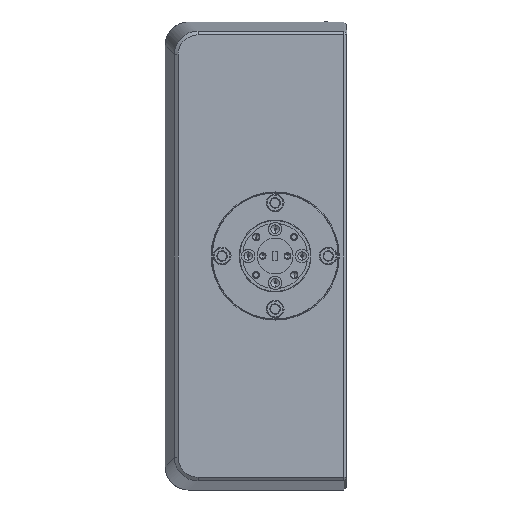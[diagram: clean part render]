
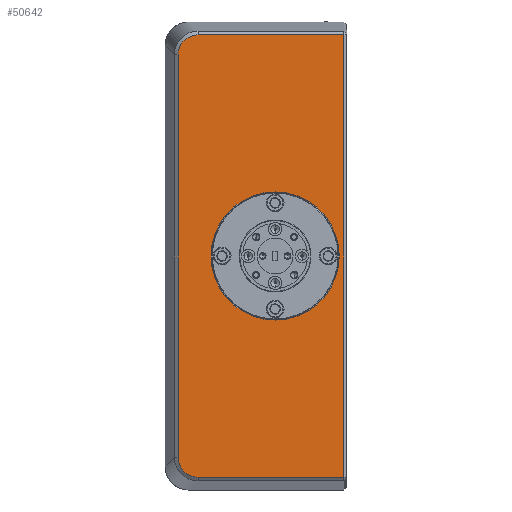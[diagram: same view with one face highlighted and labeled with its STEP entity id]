
A CAD part, left-side view. The second image highlights one B-rep face of the part: STEP entity #50642.
In plain terms, the highlighted planar face has unit normal (-1, 0, 0).
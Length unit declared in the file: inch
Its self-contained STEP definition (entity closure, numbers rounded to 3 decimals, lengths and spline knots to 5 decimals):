
#1536 = CARTESIAN_POINT ( 'NONE',  ( -2.75, 4.81844, 2.23117 ) ) ;
#2105 = VERTEX_POINT ( 'NONE', #58259 ) ;
#2536 = DIRECTION ( 'NONE',  ( 0., 0., 1. ) ) ;
#2976 = CARTESIAN_POINT ( 'NONE',  ( -2.75, 4.04607, 0. ) ) ;
#2977 = CARTESIAN_POINT ( 'NONE',  ( -2.75, 4.83369, -2.20829 ) ) ;
#3613 = CARTESIAN_POINT ( 'NONE',  ( -2.75, 4.80979, -2.24174 ) ) ;
#6203 = DIRECTION ( 'NONE',  ( -1., 0., 0. ) ) ;
#6360 = CARTESIAN_POINT ( 'NONE',  ( -2.75, 4.79056, 2.26096 ) ) ;
#6684 = CARTESIAN_POINT ( 'NONE',  ( -2.75, 4.78, 2.26962 ) ) ;
#7339 = ORIENTED_EDGE ( 'NONE', *, *, #41808, .T. ) ;
#7635 = CARTESIAN_POINT ( 'NONE',  ( -2.75, 4.75712, 2.28486 ) ) ;
#7691 = CIRCLE ( 'NONE', #43529, 0.67 ) ;
#7803 = CARTESIAN_POINT ( 'NONE',  ( -2.75, 4.65223, -2.31232 ) ) ;
#8427 = CARTESIAN_POINT ( 'NONE',  ( -2.75, 4.84013, -2.19623 ) ) ;
#8866 = CARTESIAN_POINT ( 'NONE',  ( -2.75, 4.04607, -2.31232 ) ) ;
#9175 = LINE ( 'NONE', #8866, #33201 ) ;
#9545 = VECTOR ( 'NONE', #24882, 39.37008 ) ;
#9869 = ORIENTED_EDGE ( 'NONE', *, *, #61025, .T. ) ;
#11487 = CARTESIAN_POINT ( 'NONE',  ( -2.75, 4.83369, 2.2083 ) ) ;
#12176 = CARTESIAN_POINT ( 'NONE',  ( -2.75, 3.12607, 0. ) ) ;
#12591 = DIRECTION ( 'NONE',  ( 0., 0., 1. ) ) ;
#13123 = CIRCLE ( 'NONE', #57158, 0.67 ) ;
#13884 = DIRECTION ( 'NONE',  ( 1., 0., 0. ) ) ;
#14946 = LINE ( 'NONE', #49559, #9545 ) ;
#16292 = EDGE_CURVE ( 'NONE', #30378, #50068, #42052, .T. ) ;
#18034 = CARTESIAN_POINT ( 'NONE',  ( -2.75, 4.79057, -2.26097 ) ) ;
#18663 = CARTESIAN_POINT ( 'NONE',  ( -2.75, 4.67966, -2.31099 ) ) ;
#19050 = VERTEX_POINT ( 'NONE', #61886 ) ;
#19279 = B_SPLINE_CURVE_WITH_KNOTS ( 'NONE', 3,
 ( #61065, #27690, #62630, #58136, #52674, #8427, #2977, #22548, #3613, #18034, #57823, #23816, #37618, #57185, #43373, #18663, #56870, #7803 ),
 .UNSPECIFIED., .F., .F.,
 ( 4, 2, 2, 2, 2, 2, 2, 2, 4 ),
 ( 0., 0.125, 0.25, 0.375, 0.5, 0.625, 0.75, 0.875, 1. ),
 .UNSPECIFIED. ) ;
#21092 = CARTESIAN_POINT ( 'NONE',  ( -2.75, 4.84012, 2.19624 ) ) ;
#21632 = VERTEX_POINT ( 'NONE', #28387 ) ;
#22414 = LINE ( 'NONE', #12176, #46209 ) ;
#22548 = CARTESIAN_POINT ( 'NONE',  ( -2.75, 4.81844, -2.23117 ) ) ;
#23310 = ORIENTED_EDGE ( 'NONE', *, *, #27354, .T. ) ;
#23590 = EDGE_CURVE ( 'NONE', #2105, #19050, #13123, .T. ) ;
#23816 = CARTESIAN_POINT ( 'NONE',  ( -2.75, 4.75712, -2.28486 ) ) ;
#23992 = VECTOR ( 'NONE', #27158, 39.37008 ) ;
#24836 = VERTEX_POINT ( 'NONE', #58197 ) ;
#24882 = DIRECTION ( 'NONE',  ( 0., 0., -1. ) ) ;
#25932 = CARTESIAN_POINT ( 'NONE',  ( -2.75, 4.80979, 2.24174 ) ) ;
#27158 = DIRECTION ( 'NONE',  ( 0., 1., 0. ) ) ;
#27354 = EDGE_CURVE ( 'NONE', #58630, #30378, #32304, .T. ) ;
#27690 = CARTESIAN_POINT ( 'NONE',  ( -2.75, 4.86115, -2.11713 ) ) ;
#28387 = CARTESIAN_POINT ( 'NONE',  ( -2.75, 3.12607, -2.31232 ) ) ;
#28670 = ORIENTED_EDGE ( 'NONE', *, *, #16292, .T. ) ;
#29489 = CARTESIAN_POINT ( 'NONE',  ( -2.75, 4.86115, -2.1034 ) ) ;
#29994 = ORIENTED_EDGE ( 'NONE', *, *, #38850, .T. ) ;
#30378 = VERTEX_POINT ( 'NONE', #51074 ) ;
#31079 = CARTESIAN_POINT ( 'NONE',  ( -2.75, 4.85446, 2.15793 ) ) ;
#31402 = CARTESIAN_POINT ( 'NONE',  ( -2.75, 4.86115, 2.1034 ) ) ;
#32304 = LINE ( 'NONE', #62109, #23992 ) ;
#33201 = VECTOR ( 'NONE', #47670, 39.37008 ) ;
#34445 = CARTESIAN_POINT ( 'NONE',  ( -2.75, 3.84607, 0. ) ) ;
#36194 = CARTESIAN_POINT ( 'NONE',  ( -2.75, 4.86115, 2.11717 ) ) ;
#37618 = CARTESIAN_POINT ( 'NONE',  ( -2.75, 4.74507, -2.29129 ) ) ;
#38231 = FACE_OUTER_BOUND ( 'NONE', #53705, .T. ) ;
#38850 = EDGE_CURVE ( 'NONE', #50068, #51490, #14946, .T. ) ;
#40660 = CARTESIAN_POINT ( 'NONE',  ( -2.75, 4.70673, 2.30563 ) ) ;
#41808 = EDGE_CURVE ( 'NONE', #24836, #21632, #9175, .T. ) ;
#42052 = B_SPLINE_CURVE_WITH_KNOTS ( 'NONE', 3,
 ( #45479, #55104, #55429, #40660, #51556, #46757, #7635, #6684, #6360, #25932, #1536, #11487, #21092, #60257, #31079, #50605, #36194, #31402 ),
 .UNSPECIFIED., .F., .F.,
 ( 4, 2, 2, 2, 2, 2, 2, 2, 4 ),
 ( 0., 0.125, 0.25, 0.375, 0.5, 0.625, 0.75, 0.875, 1. ),
 .UNSPECIFIED. ) ;
#43373 = CARTESIAN_POINT ( 'NONE',  ( -2.75, 4.70676, -2.30563 ) ) ;
#43529 = AXIS2_PLACEMENT_3D ( 'NONE', #34445, #6203, #53990 ) ;
#45479 = CARTESIAN_POINT ( 'NONE',  ( -2.75, 4.65223, 2.31232 ) ) ;
#46209 = VECTOR ( 'NONE', #2536, 39.37008 ) ;
#46614 = DIRECTION ( 'NONE',  ( 0., 1., 0. ) ) ;
#46757 = CARTESIAN_POINT ( 'NONE',  ( -2.75, 4.74506, 2.2913 ) ) ;
#46922 = FACE_BOUND ( 'NONE', #53505, .T. ) ;
#47670 = DIRECTION ( 'NONE',  ( 0., -1., 0. ) ) ;
#49559 = CARTESIAN_POINT ( 'NONE',  ( -2.75, 4.86115, 0. ) ) ;
#50068 = VERTEX_POINT ( 'NONE', #61450 ) ;
#50605 = CARTESIAN_POINT ( 'NONE',  ( -2.75, 4.85981, 2.13083 ) ) ;
#50642 = ADVANCED_FACE ( 'NONE', ( #38231, #46922 ), #57822, .F. ) ;
#51074 = CARTESIAN_POINT ( 'NONE',  ( -2.75, 4.65223, 2.31232 ) ) ;
#51490 = VERTEX_POINT ( 'NONE', #29489 ) ;
#51556 = CARTESIAN_POINT ( 'NONE',  ( -2.75, 4.71985, 2.30168 ) ) ;
#52355 = ORIENTED_EDGE ( 'NONE', *, *, #59310, .T. ) ;
#52674 = CARTESIAN_POINT ( 'NONE',  ( -2.75, 4.85051, -2.17102 ) ) ;
#53505 = EDGE_LOOP ( 'NONE', ( #61591, #59592 ) ) ;
#53705 = EDGE_LOOP ( 'NONE', ( #9869, #7339, #52355, #23310, #28670, #29994 ) ) ;
#53990 = DIRECTION ( 'NONE',  ( 0., 0., 1. ) ) ;
#55104 = CARTESIAN_POINT ( 'NONE',  ( -2.75, 4.66596, 2.31232 ) ) ;
#55429 = CARTESIAN_POINT ( 'NONE',  ( -2.75, 4.67964, 2.31098 ) ) ;
#56245 = EDGE_CURVE ( 'NONE', #19050, #2105, #7691, .T. ) ;
#56526 = CARTESIAN_POINT ( 'NONE',  ( -2.75, 3.84607, 0. ) ) ;
#56870 = CARTESIAN_POINT ( 'NONE',  ( -2.75, 4.666, -2.31232 ) ) ;
#57158 = AXIS2_PLACEMENT_3D ( 'NONE', #56526, #61670, #12591 ) ;
#57185 = CARTESIAN_POINT ( 'NONE',  ( -2.75, 4.71984, -2.30169 ) ) ;
#57822 = PLANE ( 'NONE',  #58653 ) ;
#57823 = CARTESIAN_POINT ( 'NONE',  ( -2.75, 4.78, -2.26962 ) ) ;
#58136 = CARTESIAN_POINT ( 'NONE',  ( -2.75, 4.85446, -2.1579 ) ) ;
#58197 = CARTESIAN_POINT ( 'NONE',  ( -2.75, 4.65223, -2.31232 ) ) ;
#58259 = CARTESIAN_POINT ( 'NONE',  ( -2.75, 3.84607, 0.67 ) ) ;
#58466 = CARTESIAN_POINT ( 'NONE',  ( -2.75, 3.12607, 2.31232 ) ) ;
#58630 = VERTEX_POINT ( 'NONE', #58466 ) ;
#58653 = AXIS2_PLACEMENT_3D ( 'NONE', #2976, #13884, #46614 ) ;
#59310 = EDGE_CURVE ( 'NONE', #21632, #58630, #22414, .T. ) ;
#59592 = ORIENTED_EDGE ( 'NONE', *, *, #56245, .F. ) ;
#60257 = CARTESIAN_POINT ( 'NONE',  ( -2.75, 4.85052, 2.17101 ) ) ;
#61025 = EDGE_CURVE ( 'NONE', #51490, #24836, #19279, .T. ) ;
#61065 = CARTESIAN_POINT ( 'NONE',  ( -2.75, 4.86115, -2.1034 ) ) ;
#61450 = CARTESIAN_POINT ( 'NONE',  ( -2.75, 4.86115, 2.1034 ) ) ;
#61591 = ORIENTED_EDGE ( 'NONE', *, *, #23590, .F. ) ;
#61670 = DIRECTION ( 'NONE',  ( -1., 0., 0. ) ) ;
#61886 = CARTESIAN_POINT ( 'NONE',  ( -2.75, 3.84607, -0.67 ) ) ;
#62109 = CARTESIAN_POINT ( 'NONE',  ( -2.75, 4.04607, 2.31232 ) ) ;
#62630 = CARTESIAN_POINT ( 'NONE',  ( -2.75, 4.8598, -2.13082 ) ) ;
